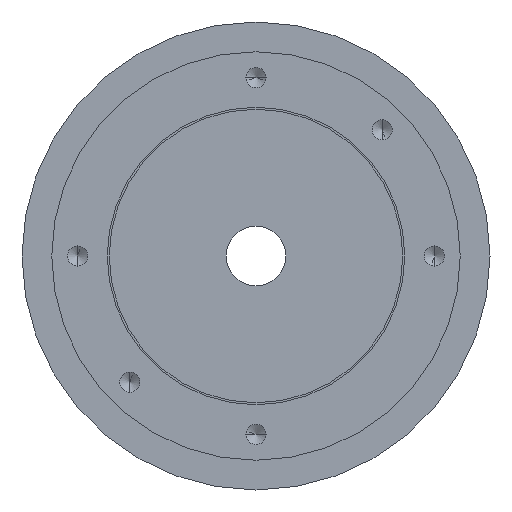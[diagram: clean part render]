
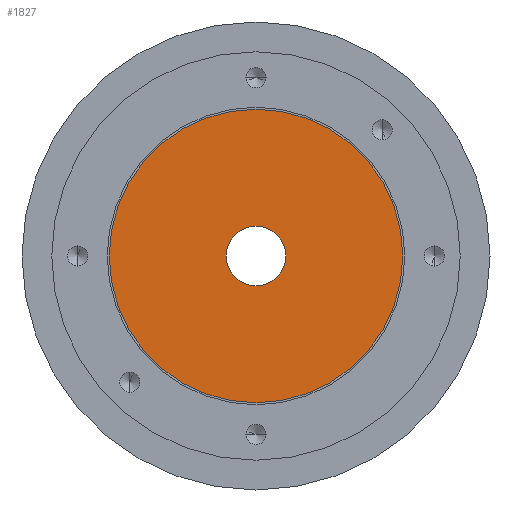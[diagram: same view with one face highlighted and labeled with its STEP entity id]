
A CAD part, left-side view. The second image highlights one B-rep face of the part: STEP entity #1827.
In plain terms, the highlighted planar face has unit normal (-1, 0, 0).
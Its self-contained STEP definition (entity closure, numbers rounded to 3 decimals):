
#70 = CARTESIAN_POINT ( 'NONE',  ( 0., 0., 74. ) ) ;
#71 = DIRECTION ( 'NONE',  ( 0., 0., 1. ) ) ;
#72 = DIRECTION ( 'NONE',  ( -1., 0., 0. ) ) ;
#73 = CARTESIAN_POINT ( 'NONE',  ( 0., 0., 0. ) ) ;
#74 = AXIS2_PLACEMENT_3D ( 'NONE', #73, #72, #71 ) ;
#75 = CIRCLE ( 'NONE', #74, 74. ) ;
#76 = CARTESIAN_POINT ( 'NONE',  ( 0., 0., -74. ) ) ;
#87 = CARTESIAN_POINT ( 'NONE',  ( 0., 0., 15. ) ) ;
#116 = DIRECTION ( 'NONE',  ( 0., 0., 1. ) ) ;
#117 = DIRECTION ( 'NONE',  ( -1., 0., 0. ) ) ;
#118 = AXIS2_PLACEMENT_3D ( 'NONE', #124, #117, #116 ) ;
#119 = CIRCLE ( 'NONE', #118, 15. ) ;
#120 = DIRECTION ( 'NONE',  ( 0., 0., 1. ) ) ;
#121 = DIRECTION ( 'NONE',  ( -1., 0., 0. ) ) ;
#122 = CARTESIAN_POINT ( 'NONE',  ( 0., 0., 0. ) ) ;
#123 = AXIS2_PLACEMENT_3D ( 'NONE', #122, #121, #120 ) ;
#124 = CARTESIAN_POINT ( 'NONE',  ( 0., 0., 0. ) ) ;
#167 = CIRCLE ( 'NONE', #123, 74. ) ;
#168 = DIRECTION ( 'NONE',  ( 0., 0., -1. ) ) ;
#169 = DIRECTION ( 'NONE',  ( 1., 0., 0. ) ) ;
#170 = CARTESIAN_POINT ( 'NONE',  ( 0., 0., 0. ) ) ;
#171 = AXIS2_PLACEMENT_3D ( 'NONE', #170, #169, #168 ) ;
#172 = PLANE ( 'NONE',  #171 ) ;
#173 = FACE_BOUND ( 'NONE', #1832, .T. ) ;
#174 = FACE_OUTER_BOUND ( 'NONE', #1828, .T. ) ;
#1221 = DIRECTION ( 'NONE',  ( 0., 0., 1. ) ) ;
#1222 = DIRECTION ( 'NONE',  ( -1., 0., 0. ) ) ;
#1223 = CARTESIAN_POINT ( 'NONE',  ( 0., 0., 0. ) ) ;
#1224 = AXIS2_PLACEMENT_3D ( 'NONE', #1223, #1222, #1221 ) ;
#1225 = CIRCLE ( 'NONE', #1224, 15. ) ;
#1227 = CARTESIAN_POINT ( 'NONE',  ( 0., 0., -15. ) ) ;
#1674 = VERTEX_POINT ( 'NONE', #1227 ) ;
#1676 = EDGE_CURVE ( 'NONE', #1674, #1728, #1225, .T. ) ;
#1728 = VERTEX_POINT ( 'NONE', #87 ) ;
#1739 = VERTEX_POINT ( 'NONE', #76 ) ;
#1742 = EDGE_CURVE ( 'NONE', #1743, #1739, #75, .T. ) ;
#1743 = VERTEX_POINT ( 'NONE', #70 ) ;
#1827 = ADVANCED_FACE ( 'NONE', ( #174, #173 ), #172, .F. ) ;
#1828 = EDGE_LOOP ( 'NONE', ( #1829, #1830 ) ) ;
#1829 = ORIENTED_EDGE ( 'NONE', *, *, #1742, .T. ) ;
#1830 = ORIENTED_EDGE ( 'NONE', *, *, #1831, .T. ) ;
#1831 = EDGE_CURVE ( 'NONE', #1739, #1743, #167, .T. ) ;
#1832 = EDGE_LOOP ( 'NONE', ( #1833, #1835 ) ) ;
#1833 = ORIENTED_EDGE ( 'NONE', *, *, #1834, .F. ) ;
#1834 = EDGE_CURVE ( 'NONE', #1728, #1674, #119, .T. ) ;
#1835 = ORIENTED_EDGE ( 'NONE', *, *, #1676, .F. ) ;
